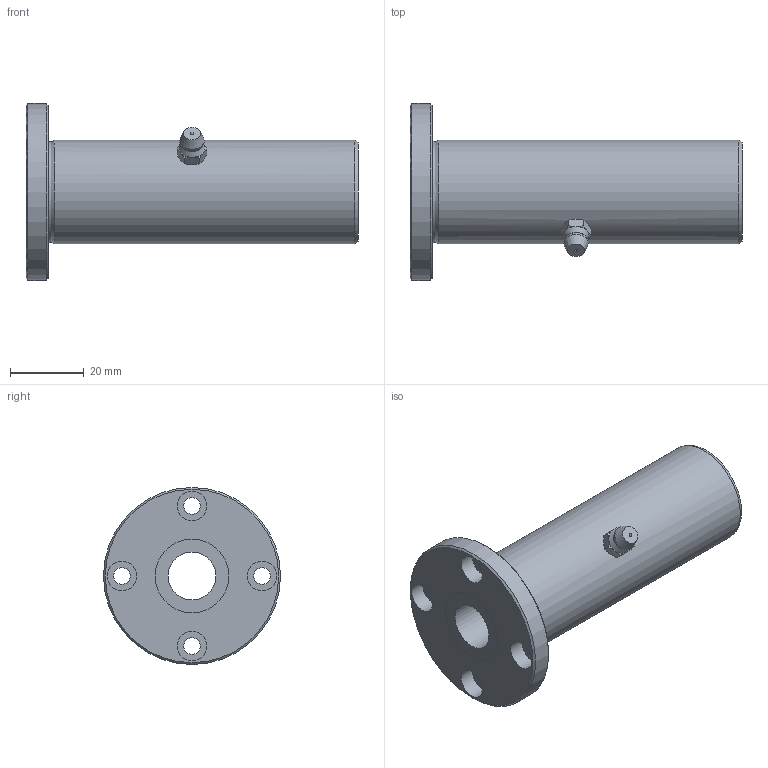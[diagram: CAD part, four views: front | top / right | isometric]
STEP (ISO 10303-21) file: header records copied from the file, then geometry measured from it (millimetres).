
FILE_DESCRIPTION((''),'2;1');
FILE_NAME('D:\製品 (図面)\カタログ用3D\リニアベアリング関連\STEP形式\LFL\LFL13.stp','2010-06-04T08:59:40',('Tsuchiya'),(''),'Autodesk Inventor 10','Autodesk Inventor 10','');
FILE_SCHEMA(('AUTOMOTIVE_DESIGN { 1 0 10303 214 1 1 1 1 }'));
Length unit declared in the file: millimetre
Products named in the file (1): LFL13
Bounding box: 90 x 48 x 48 mm (x, y, z)
Volume: 49801.8 mm3; surface area: 15822.6 mm2
Topology: 1 solids, 1 shells, 55 faces, 110 edges, 66 vertices
Faces by surface type: plane 19, cone 15, cylinder 15, bspline 3, sphere 2, torus 1
Full cylindrical faces by diameter (mm): 4.5 x4, 8 x4, 13 x1, 20 x2, 28 x1, 48 x1
Entity records: 1561 total; most frequent: CARTESIAN_POINT 508, DIRECTION 220, ORIENTED_EDGE 176, AXIS2_PLACEMENT_3D 105, EDGE_LOOP 96, EDGE_CURVE 88, VERTEX_POINT 64, FACE_OUTER_BOUND 55
